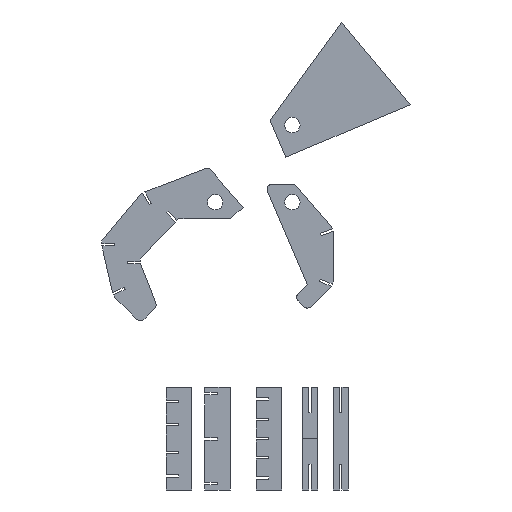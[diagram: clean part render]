
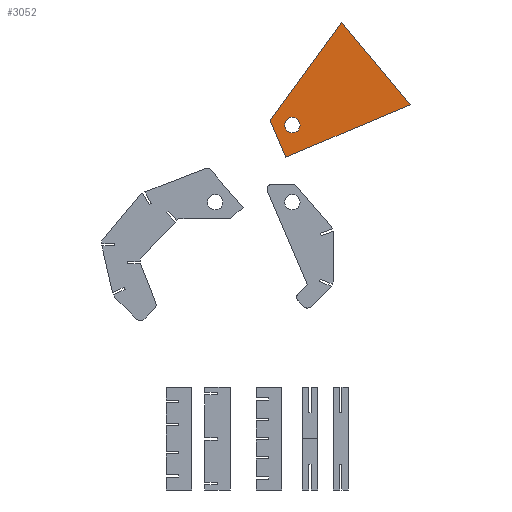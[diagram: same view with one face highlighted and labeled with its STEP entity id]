
A CAD part, left-side view. The second image highlights one B-rep face of the part: STEP entity #3052.
In plain terms, the highlighted planar face has unit normal (-1, 0, 0).
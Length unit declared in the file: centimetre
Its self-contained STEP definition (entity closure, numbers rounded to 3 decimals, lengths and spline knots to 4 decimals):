
#48=FACE_BOUND('',#279,.T.);
#108=FACE_OUTER_BOUND('',#278,.T.);
#278=EDGE_LOOP('',(#2283,#2284,#2285,#2286));
#279=EDGE_LOOP('',(#2287));
#531=LINE('',#4454,#950);
#532=LINE('',#4456,#951);
#533=LINE('',#4458,#952);
#534=LINE('',#4459,#953);
#950=VECTOR('',#3638,1.);
#951=VECTOR('',#3639,1.);
#952=VECTOR('',#3640,1.);
#953=VECTOR('',#3641,1.);
#1240=CIRCLE('',#3241,1.5);
#1348=VERTEX_POINT('',#4452);
#1349=VERTEX_POINT('',#4453);
#1350=VERTEX_POINT('',#4455);
#1351=VERTEX_POINT('',#4457);
#1352=VERTEX_POINT('',#4460);
#1691=EDGE_CURVE('',#1348,#1349,#531,.T.);
#1692=EDGE_CURVE('',#1348,#1350,#532,.T.);
#1693=EDGE_CURVE('',#1351,#1350,#533,.T.);
#1694=EDGE_CURVE('',#1351,#1349,#534,.T.);
#1695=EDGE_CURVE('',#1352,#1352,#1240,.T.);
#2283=ORIENTED_EDGE('',*,*,#1691,.F.);
#2284=ORIENTED_EDGE('',*,*,#1692,.T.);
#2285=ORIENTED_EDGE('',*,*,#1693,.F.);
#2286=ORIENTED_EDGE('',*,*,#1694,.T.);
#2287=ORIENTED_EDGE('',*,*,#1695,.F.);
#2889=PLANE('',#3240);
#3052=ADVANCED_FACE('',(#108,#48),#2889,.F.);
#3240=AXIS2_PLACEMENT_3D('',#4451,#3636,#3637);
#3241=AXIS2_PLACEMENT_3D('',#4461,#3642,#3643);
#3636=DIRECTION('center_axis',(1.,0.,0.));
#3637=DIRECTION('ref_axis',(0.,0.,-1.));
#3638=DIRECTION('',(0.,0.394,0.919));
#3639=DIRECTION('',(0.,-0.921,0.39));
#3640=DIRECTION('',(0.,-0.639,-0.77));
#3641=DIRECTION('',(0.,0.589,-0.808));
#3642=DIRECTION('center_axis',(-1.,0.,0.));
#3643=DIRECTION('ref_axis',(0.,1.,0.));
#4451=CARTESIAN_POINT('Origin',(1.,-11.0806,50.7489));
#4452=CARTESIAN_POINT('',(1.,-0.8203,44.7527));
#4453=CARTESIAN_POINT('',(1.,2.2752,51.9754));
#4454=CARTESIAN_POINT('',(1.,-2.6207,40.5517));
#4455=CARTESIAN_POINT('',(1.,-25.,55.));
#4456=CARTESIAN_POINT('',(1.,-13.5207,50.1351));
#4457=CARTESIAN_POINT('',(1.,-11.6553,71.0835));
#4458=CARTESIAN_POINT('',(1.,-11.6553,71.0835));
#4459=CARTESIAN_POINT('',(1.,3.6184,50.1329));
#4460=CARTESIAN_POINT('',(1.,-3.5659,51.0155));
#4461=CARTESIAN_POINT('Origin',(1.,-2.0659,51.0155));
